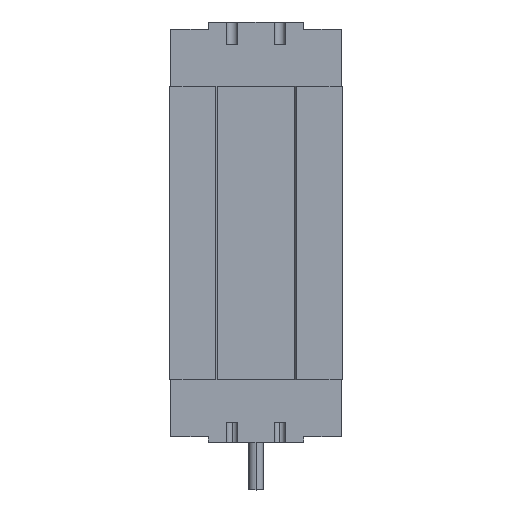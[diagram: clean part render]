
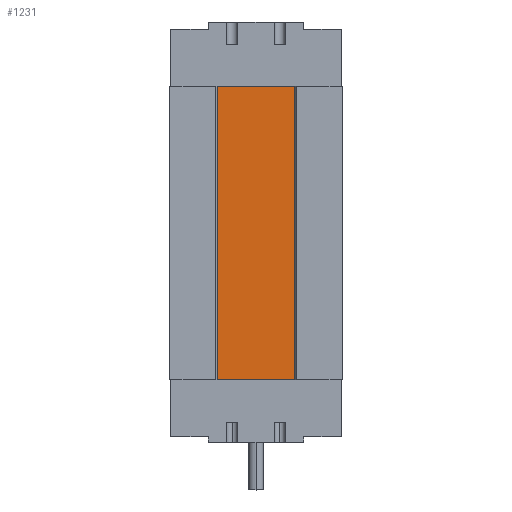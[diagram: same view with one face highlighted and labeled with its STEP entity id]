
A CAD part, top view. The second image highlights one B-rep face of the part: STEP entity #1231.
In plain terms, the highlighted planar face has unit normal (0, 0, 1).
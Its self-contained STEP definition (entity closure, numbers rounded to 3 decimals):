
#665 = VERTEX_POINT ( 'NONE', #3206 ) ;
#674 = VERTEX_POINT ( 'NONE', #3195 ) ;
#736 = EDGE_CURVE ( 'NONE', #665, #674, #3328, .T. ) ;
#1228 = EDGE_CURVE ( 'NONE', #1248, #674, #4173, .T. ) ;
#1229 = EDGE_LOOP ( 'NONE', ( #1233, #1235, #1236, #1238 ) ) ;
#1231 = ADVANCED_FACE ( 'NONE', ( #4178 ), #4206, .F. ) ;
#1233 = ORIENTED_EDGE ( 'NONE', *, *, #736, .T. ) ;
#1234 = EDGE_CURVE ( 'NONE', #1241, #1248, #4205, .T. ) ;
#1235 = ORIENTED_EDGE ( 'NONE', *, *, #1228, .F. ) ;
#1236 = ORIENTED_EDGE ( 'NONE', *, *, #1234, .F. ) ;
#1237 = EDGE_CURVE ( 'NONE', #1241, #665, #4197, .T. ) ;
#1238 = ORIENTED_EDGE ( 'NONE', *, *, #1237, .T. ) ;
#1241 = VERTEX_POINT ( 'NONE', #4186 ) ;
#1248 = VERTEX_POINT ( 'NONE', #4238 ) ;
#3195 = CARTESIAN_POINT ( 'NONE',  ( 21., 0., 19.5 ) ) ;
#3206 = CARTESIAN_POINT ( 'NONE',  ( -21., 0., 19.5 ) ) ;
#3328 = LINE ( 'NONE', #3378, #3377 ) ;
#3376 = DIRECTION ( 'NONE',  ( 1., 0., 0. ) ) ;
#3377 = VECTOR ( 'NONE', #3376, 1000. ) ;
#3378 = CARTESIAN_POINT ( 'NONE',  ( -21., 0., 19.5 ) ) ;
#4152 = DIRECTION ( 'NONE',  ( 0., -1., 0. ) ) ;
#4153 = CARTESIAN_POINT ( 'NONE',  ( 21., 160., 19.5 ) ) ;
#4157 = AXIS2_PLACEMENT_3D ( 'NONE', #4204, #4203, #4202 ) ;
#4173 = LINE ( 'NONE', #4153, #4207 ) ;
#4178 = FACE_OUTER_BOUND ( 'NONE', #1229, .T. ) ;
#4186 = CARTESIAN_POINT ( 'NONE',  ( -21., 160., 19.5 ) ) ;
#4193 = DIRECTION ( 'NONE',  ( 0., -1., 0. ) ) ;
#4194 = VECTOR ( 'NONE', #4193, 1000. ) ;
#4196 = CARTESIAN_POINT ( 'NONE',  ( -21., 160., 19.5 ) ) ;
#4197 = LINE ( 'NONE', #4196, #4194 ) ;
#4198 = DIRECTION ( 'NONE',  ( 1., 0., 0. ) ) ;
#4199 = VECTOR ( 'NONE', #4198, 1000. ) ;
#4200 = CARTESIAN_POINT ( 'NONE',  ( -21., 160., 19.5 ) ) ;
#4202 = DIRECTION ( 'NONE',  ( -1., 0., 0. ) ) ;
#4203 = DIRECTION ( 'NONE',  ( 0., 0., -1. ) ) ;
#4204 = CARTESIAN_POINT ( 'NONE',  ( -21., 160., 19.5 ) ) ;
#4205 = LINE ( 'NONE', #4200, #4199 ) ;
#4206 = PLANE ( 'NONE',  #4157 ) ;
#4207 = VECTOR ( 'NONE', #4152, 1000. ) ;
#4238 = CARTESIAN_POINT ( 'NONE',  ( 21., 160., 19.5 ) ) ;
